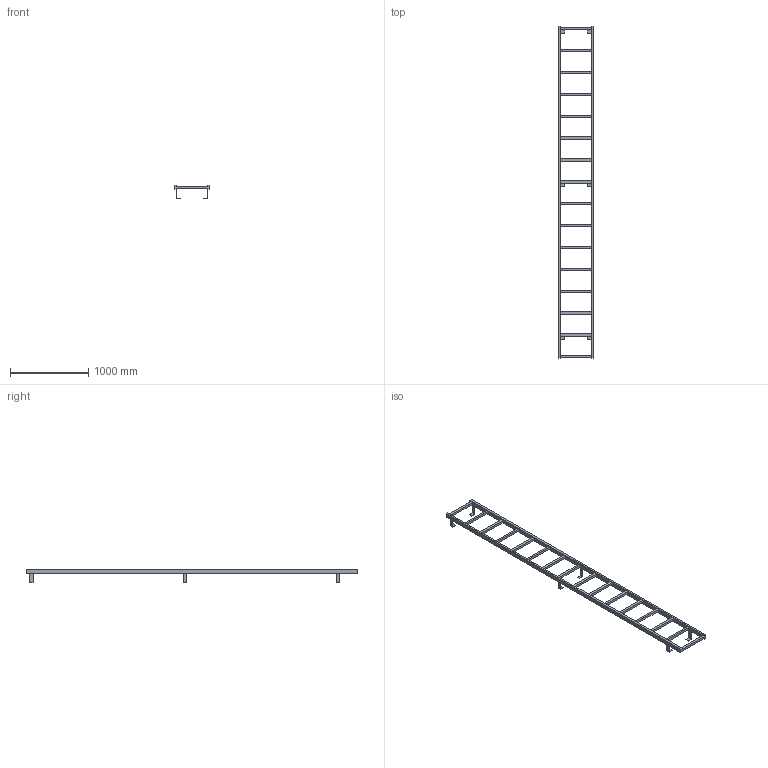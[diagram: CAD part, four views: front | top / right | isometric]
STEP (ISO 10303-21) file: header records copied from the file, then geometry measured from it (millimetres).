
FILE_DESCRIPTION((''),'2;1');
FILE_NAME('017_000109','2017-06-19T',('set'),('HUBER SE'),'PRO/ENGINEER BY PARAMETRIC TECHNOLOGY CORPORATION, 2015280','PRO/ENGINEER BY PARAMETRIC TECHNOLOGY CORPORATION, 2015280','');
FILE_SCHEMA(('CONFIG_CONTROL_DESIGN'));
Length unit declared in the file: millimetre
Products named in the file (1): 017_000109
Bounding box: 450 x 4250 x 178.5 mm (x, y, z)
Volume: 17969940 mm3; surface area: 2228132 mm2
Topology: 1 solids, 1 shells, 122 faces, 461 edges, 335 vertices
Faces by surface type: plane 122
Entity records: 4746 total; most frequent: CARTESIAN_POINT 975, ORIENTED_EDGE 720, DIRECTION 692, VECTOR 414, LINE 414, EDGE_CURVE 360, VERTEX_POINT 234, EDGE_LOOP 146
